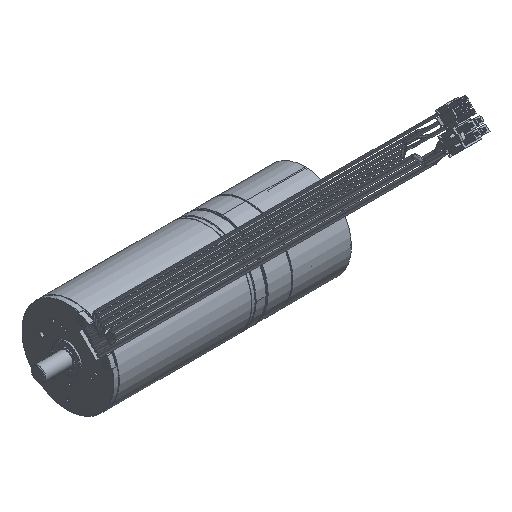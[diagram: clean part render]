
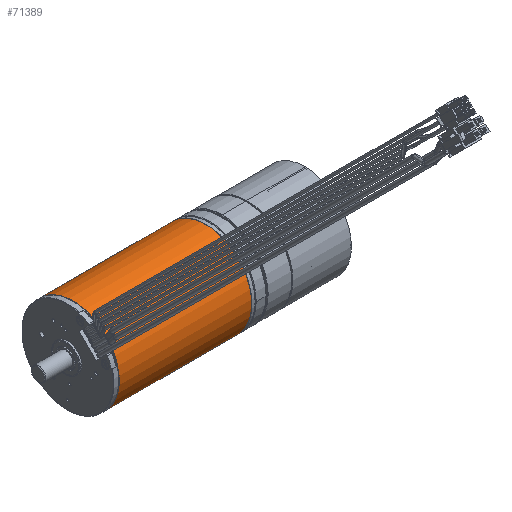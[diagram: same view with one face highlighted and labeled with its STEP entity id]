
A CAD part, isometric view. The second image highlights one B-rep face of the part: STEP entity #71389.
In plain terms, the highlighted cylindrical face has radius 26 mm (diameter 52 mm), a partial arc.
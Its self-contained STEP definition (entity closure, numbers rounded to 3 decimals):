
#2564 = VERTEX_POINT ( 'NONE', #39593 ) ;
#2848 = DIRECTION ( 'NONE',  ( 0., 0., -1. ) ) ;
#6815 = VERTEX_POINT ( 'NONE', #44845 ) ;
#7085 = CARTESIAN_POINT ( 'NONE',  ( 76.9, 0., 26. ) ) ;
#11377 = LINE ( 'NONE', #55183, #11443 ) ;
#11443 = VECTOR ( 'NONE', #22908, 1000. ) ;
#12073 = AXIS2_PLACEMENT_3D ( 'NONE', #72092, #72069, #72003 ) ;
#19299 = EDGE_CURVE ( 'NONE', #6815, #2564, #80593, .T. ) ;
#19918 = ORIENTED_EDGE ( 'NONE', *, *, #37862, .T. ) ;
#20666 = CYLINDRICAL_SURFACE ( 'NONE', #64036, 26. ) ;
#22908 = DIRECTION ( 'NONE',  ( 1., 0., 0. ) ) ;
#26009 = VECTOR ( 'NONE', #65235, 1000. ) ;
#26098 = LINE ( 'NONE', #40210, #26009 ) ;
#29338 = EDGE_CURVE ( 'NONE', #6815, #44235, #11377, .T. ) ;
#32060 = EDGE_CURVE ( 'NONE', #2564, #69874, #26098, .T. ) ;
#32748 = EDGE_LOOP ( 'NONE', ( #73982, #67042, #57178, #19918 ) ) ;
#37862 = EDGE_CURVE ( 'NONE', #69874, #44235, #41437, .T. ) ;
#39593 = CARTESIAN_POINT ( 'NONE',  ( 2.1, 0., -26. ) ) ;
#40210 = CARTESIAN_POINT ( 'NONE',  ( -25.84, 0., -26. ) ) ;
#40536 = DIRECTION ( 'NONE',  ( 0., 0., -1. ) ) ;
#41418 = DIRECTION ( 'NONE',  ( -1., 0., 0. ) ) ;
#41437 = CIRCLE ( 'NONE', #45934, 26. ) ;
#44235 = VERTEX_POINT ( 'NONE', #7085 ) ;
#44845 = CARTESIAN_POINT ( 'NONE',  ( 2.1, 0., 26. ) ) ;
#45850 = FACE_OUTER_BOUND ( 'NONE', #32748, .T. ) ;
#45934 = AXIS2_PLACEMENT_3D ( 'NONE', #79270, #41418, #2848 ) ;
#53143 = DIRECTION ( 'NONE',  ( 1., 0., 0. ) ) ;
#55183 = CARTESIAN_POINT ( 'NONE',  ( -25.84, 0., 26. ) ) ;
#57178 = ORIENTED_EDGE ( 'NONE', *, *, #32060, .T. ) ;
#64036 = AXIS2_PLACEMENT_3D ( 'NONE', #71897, #53143, #40536 ) ;
#65235 = DIRECTION ( 'NONE',  ( 1., 0., 0. ) ) ;
#67042 = ORIENTED_EDGE ( 'NONE', *, *, #19299, .T. ) ;
#69874 = VERTEX_POINT ( 'NONE', #71256 ) ;
#71256 = CARTESIAN_POINT ( 'NONE',  ( 76.9, 0., -26. ) ) ;
#71389 = ADVANCED_FACE ( 'NONE', ( #45850 ), #20666, .T. ) ;
#71897 = CARTESIAN_POINT ( 'NONE',  ( -25.84, 0., 0. ) ) ;
#72003 = DIRECTION ( 'NONE',  ( 0., 0., -1. ) ) ;
#72069 = DIRECTION ( 'NONE',  ( 1., 0., 0. ) ) ;
#72092 = CARTESIAN_POINT ( 'NONE',  ( 2.1, 0., 0. ) ) ;
#73982 = ORIENTED_EDGE ( 'NONE', *, *, #29338, .F. ) ;
#79270 = CARTESIAN_POINT ( 'NONE',  ( 76.9, 0., 0. ) ) ;
#80593 = CIRCLE ( 'NONE', #12073, 26. ) ;
